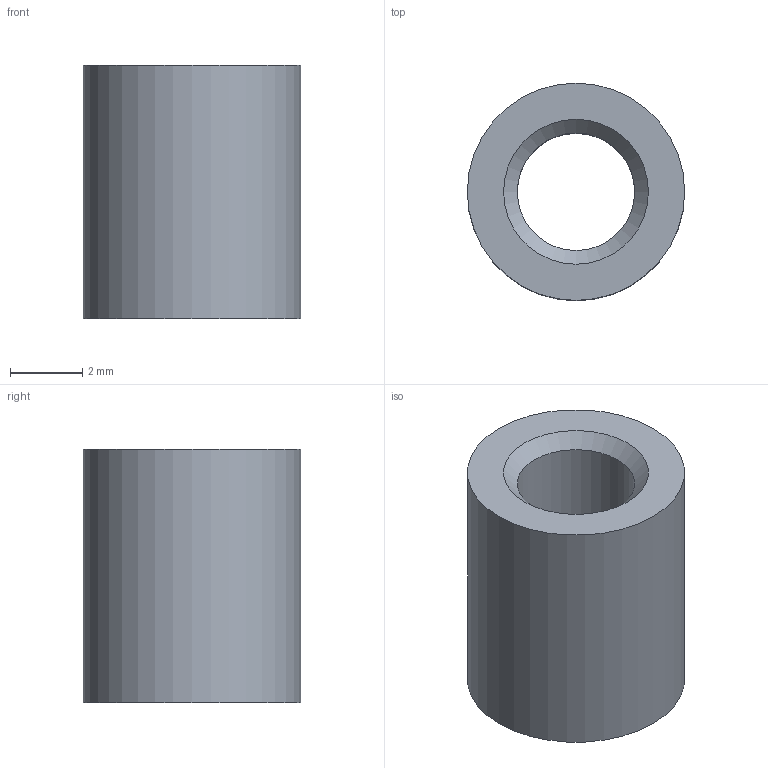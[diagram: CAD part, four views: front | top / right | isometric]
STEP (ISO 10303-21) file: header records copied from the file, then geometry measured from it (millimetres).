
FILE_DESCRIPTION(/* description */ (''),/* implementation_level */ '2;1');
FILE_NAME(/* name */ 'C:\ADSK_DMS_WS\Designs\Vorschläge\Loc Schalen\Schraubenlängebestimmung\Schrauben\Gewindehülse 7.stp',/* time_stamp */ '2021-10-05T14:04:41+02:00',/* author */ ('gm'),/* organization */ (''),/* preprocessor_version */ 'ST-DEVELOPER v16.5',/* originating_system */ 'Autodesk Inventor 2017',/* authorisation */ '');
FILE_SCHEMA (('AUTOMOTIVE_DESIGN { 1 0 10303 214 3 1 1 }'));
Length unit declared in the file: millimetre
Products named in the file (1): Gewindehülse 7
Bounding box: 6 x 6 x 7 mm (x, y, z)
Volume: 138.5 mm3; surface area: 239 mm2
Topology: 1 solids, 1 shells, 6 faces, 11 edges, 7 vertices
Faces by surface type: cone 2, cylinder 2, plane 2
Full cylindrical faces by diameter (mm): 3.242 x1, 6 x1
Entity records: 158 total; most frequent: DIRECTION 26, CARTESIAN_POINT 19, AXIS2_PLACEMENT_3D 13, EDGE_LOOP 12, ORIENTED_EDGE 12, FACE_BOUND 6, FACE_OUTER_BOUND 6, CIRCLE 6
